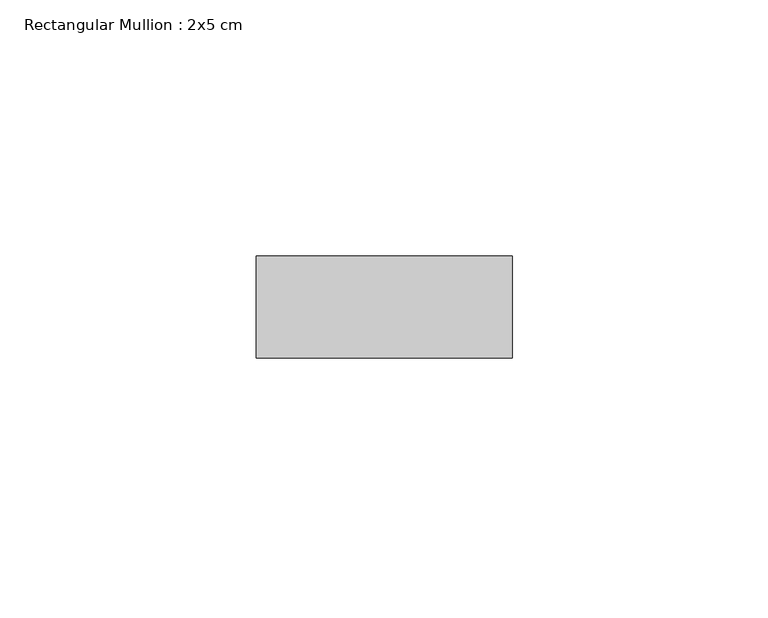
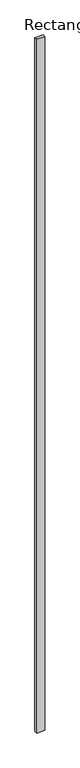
"""IFC4 building model written with IfcOpenShell, lengths in millimetres: member geometry, Rectangular Mullion : 2x5 cm."""

from ifc_helpers import new_model, si_unit, frame, origin, place, context, project, spatial, polyline, outline, extrude, source, transform, mapped, element, save


def rectangular_mullion_2x5_cm_4a58cda0(model_context):
    return source(origin(), model_context, "Body", "SweptSolid", [
        extrude(outline(polyline([(50.0, 20.0), (50.0, 0.0), (0.0, 0.0), (0.0, 20.0), (50.0, 20.0)])), frame((0.0, 0.0, -4489.3847353), z_axis=(0.0, 0.0, 1.0), x_axis=(1.0, 0.0, 0.0)), (0.0, 0.0, 1.0), 4489.3847353),
    ])


if __name__ == "__main__":
    model = new_model("IFC4")
    model_context = context("Model", 3, world=origin())
    ifc_project = project(units=[si_unit("LENGTHUNIT", "METRE", prefix="MILLI")], contexts=[model_context])
    site = spatial("IfcSite", under=ifc_project)
    building = spatial("IfcBuilding", under=site)
    placement = place(None, origin())
    rectangular_mullion_2x5_cm_shape = rectangular_mullion_2x5_cm_4a58cda0(model_context)
    element("IfcMember", 1, ObjectType="Rectangular Mullion : 2x5 cm", at=placement, inside=building, context=model_context, shape_type="MappedRepresentation", body=[
        mapped(rectangular_mullion_2x5_cm_shape, transform((0.0, 0.0, 0.0), x_axis=(1.0, 0.0, 0.0), y_axis=(0.0, 1.0, 0.0), z_axis=(0.0, 0.0, 1.0))),
    ])
    save(model, "model.ifc")
